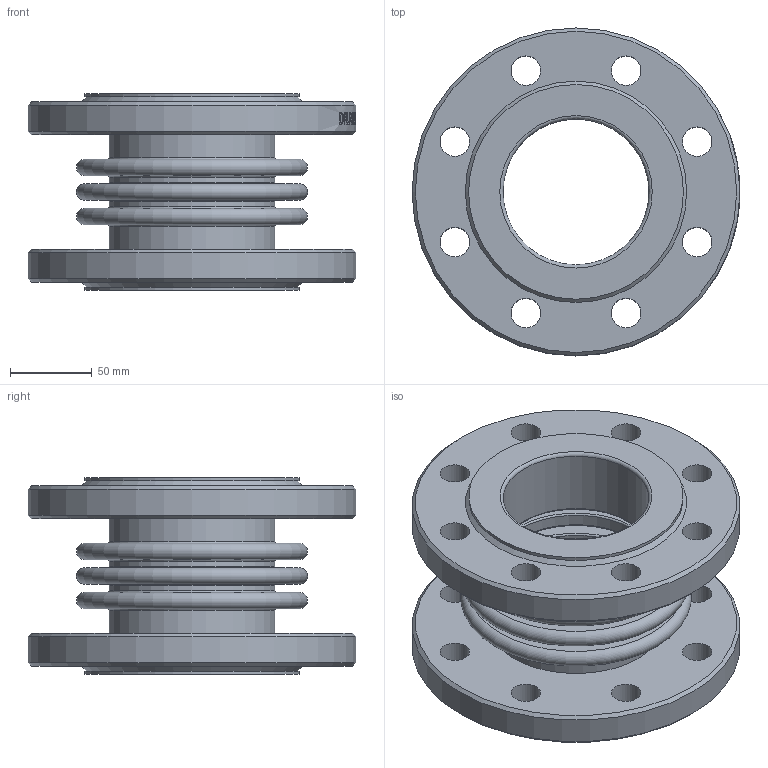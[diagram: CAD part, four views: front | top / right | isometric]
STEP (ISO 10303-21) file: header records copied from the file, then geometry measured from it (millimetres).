
FILE_DESCRIPTION(/* description */ ('D140-02140','CAx-IF Rec.Pracs.---Representation and Presentation of Product Manufacturing Information (PMI)---4.0---2014-10-13'),/* implementation_level */ '2;1');
FILE_NAME(/* name */ '',/* time_stamp */ '2026-04-14T19:03:00+03:00',/* author */ ('DN.RU'),/* organization */ ('DN.RU'),/* preprocessor_version */ 'ST-DEVELOPER v20',/* originating_system */ 'Autodesk Inventor 2025',/* authorisation */ '');
FILE_SCHEMA (('AP242_MANAGED_MODEL_BASED_3D_ENGINEERING_MIM_LF { 1 0 10303 442 1 1 4 }'));
Length unit declared in the file: millimetre
Products named in the file (1): CB-3232P-F
Bounding box: 200 x 200 x 120 mm (x, y, z)
Volume: 1145049.4 mm3; surface area: 290332.8 mm2
Topology: 1 solids, 1 shells, 274 faces, 693 edges, 462 vertices
Faces by surface type: plane 107, bspline 90, cylinder 51, torus 20, cone 6
Full cylindrical faces by diameter (mm): 18 x16, 89 x2, 97 x2, 101 x4, 107 x2, 131 x2, 200 x2
Entity records: 11530 total; most frequent: CARTESIAN_POINT 4575, ORIENTED_EDGE 1386, DIRECTION 1183, EDGE_CURVE 693, VERTEX_POINT 462, AXIS2_PLACEMENT_3D 450, STYLED_ITEM 349, EDGE_LOOP 349
